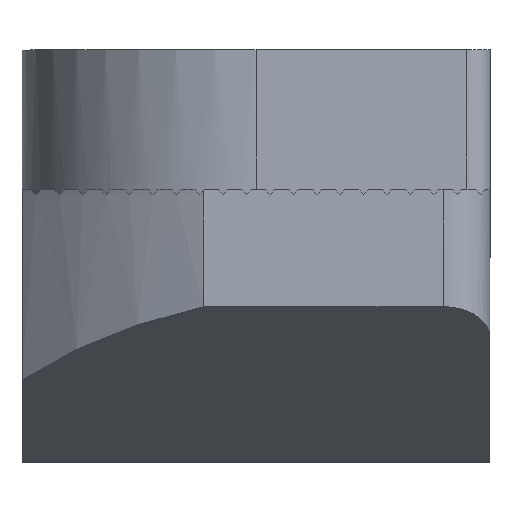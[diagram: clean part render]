
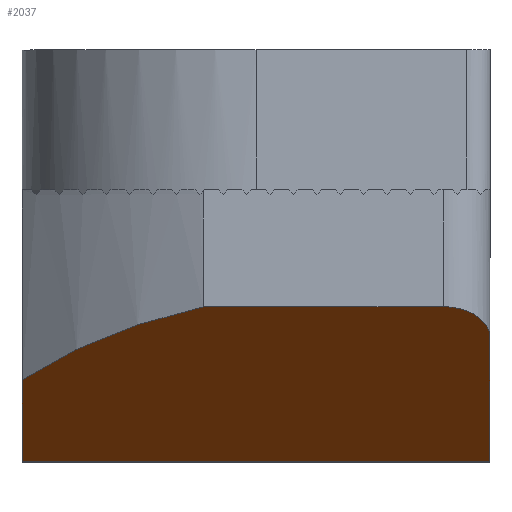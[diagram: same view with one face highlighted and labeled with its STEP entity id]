
A CAD part, top view. The second image highlights one B-rep face of the part: STEP entity #2037.
In plain terms, the highlighted planar face has unit normal (0, -0.835, 0.551).
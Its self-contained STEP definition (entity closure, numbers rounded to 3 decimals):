
#40 = CARTESIAN_POINT ( 'NONE',  ( -1.122, -2.5, 9.5 ) ) ;
#79 =( BOUNDED_CURVE ( )  B_SPLINE_CURVE ( 3, ( #4327, #3968, #4694, #2470 ),
 .UNSPECIFIED., .F., .T. ) 
 B_SPLINE_CURVE_WITH_KNOTS ( ( 4, 4 ),
 ( 4.712, 6.283 ),
 .UNSPECIFIED. ) 
 CURVE ( )  GEOMETRIC_REPRESENTATION_ITEM ( )  RATIONAL_B_SPLINE_CURVE ( ( 1., 0.805, 0.805, 1. ) ) 
 REPRESENTATION_ITEM ( '' )  );
#129 = ORIENTED_EDGE ( 'NONE', *, *, #2876, .F. ) ;
#149 = VERTEX_POINT ( 'NONE', #3459 ) ;
#180 = VERTEX_POINT ( 'NONE', #3836 ) ;
#206 = EDGE_LOOP ( 'NONE', ( #1652, #4264, #3855, #129, #3467, #4723 ) ) ;
#235 = VECTOR ( 'NONE', #3081, 1000. ) ;
#327 = VERTEX_POINT ( 'NONE', #4709 ) ;
#431 = EDGE_CURVE ( 'NONE', #619, #149, #836, .T. ) ;
#619 = VERTEX_POINT ( 'NONE', #1256 ) ;
#738 = EDGE_CURVE ( 'NONE', #4765, #327, #4916, .T. ) ;
#768 = CARTESIAN_POINT ( 'NONE',  ( 5., -2.5, 9.5 ) ) ;
#806 = CARTESIAN_POINT ( 'NONE',  ( -5., -4.057, 7.141 ) ) ;
#818 = VECTOR ( 'NONE', #1851, 1000. ) ;
#836 = LINE ( 'NONE', #1053, #818 ) ;
#1029 = FACE_OUTER_BOUND ( 'NONE', #206, .T. ) ;
#1053 = CARTESIAN_POINT ( 'NONE',  ( -5., -2.5, 9.5 ) ) ;
#1209 =( BOUNDED_CURVE ( )  B_SPLINE_CURVE ( 3, ( #806, #4596, #2372, #40 ),
 .UNSPECIFIED., .F., .F. ) 
 B_SPLINE_CURVE_WITH_KNOTS ( ( 4, 4 ),
 ( 5.508, 5.966 ),
 .UNSPECIFIED. ) 
 CURVE ( )  GEOMETRIC_REPRESENTATION_ITEM ( )  RATIONAL_B_SPLINE_CURVE ( ( 1., 0.983, 0.983, 1. ) ) 
 REPRESENTATION_ITEM ( '' )  );
#1256 = CARTESIAN_POINT ( 'NONE',  ( -1.122, -2.5, 9.5 ) ) ;
#1371 = EDGE_CURVE ( 'NONE', #4765, #180, #3027, .T. ) ;
#1652 = ORIENTED_EDGE ( 'NONE', *, *, #4826, .T. ) ;
#1780 = VECTOR ( 'NONE', #2802, 1000. ) ;
#1851 = DIRECTION ( 'NONE',  ( 1., 0., 0. ) ) ;
#2017 = EDGE_CURVE ( 'NONE', #3898, #149, #79, .T. ) ;
#2037 = ADVANCED_FACE ( 'NONE', ( #1029 ), #4340, .F. ) ;
#2106 = CARTESIAN_POINT ( 'NONE',  ( -5., -2.5, 9.5 ) ) ;
#2372 = CARTESIAN_POINT ( 'NONE',  ( -2.585, -2.817, 9.019 ) ) ;
#2470 = CARTESIAN_POINT ( 'NONE',  ( 4., -2.5, 9.5 ) ) ;
#2488 = DIRECTION ( 'NONE',  ( 0., 0.551, 0.835 ) ) ;
#2671 = CARTESIAN_POINT ( 'NONE',  ( -5., -5.8, 4.5 ) ) ;
#2802 = DIRECTION ( 'NONE',  ( 0., 0.551, 0.835 ) ) ;
#2876 = EDGE_CURVE ( 'NONE', #180, #619, #1209, .T. ) ;
#3027 = LINE ( 'NONE', #3558, #1780 ) ;
#3035 = DIRECTION ( 'NONE',  ( 1., 0., 0. ) ) ;
#3081 = DIRECTION ( 'NONE',  ( 0., 0.551, 0.835 ) ) ;
#3459 = CARTESIAN_POINT ( 'NONE',  ( 4., -2.5, 9.5 ) ) ;
#3467 = ORIENTED_EDGE ( 'NONE', *, *, #1371, .F. ) ;
#3558 = CARTESIAN_POINT ( 'NONE',  ( -5., -2.5, 9.5 ) ) ;
#3571 = CARTESIAN_POINT ( 'NONE',  ( 5., -3.16, 8.5 ) ) ;
#3836 = CARTESIAN_POINT ( 'NONE',  ( -5., -4.057, 7.141 ) ) ;
#3855 = ORIENTED_EDGE ( 'NONE', *, *, #431, .F. ) ;
#3898 = VERTEX_POINT ( 'NONE', #3571 ) ;
#3968 = CARTESIAN_POINT ( 'NONE',  ( 5., -2.773, 9.086 ) ) ;
#4170 = LINE ( 'NONE', #768, #235 ) ;
#4264 = ORIENTED_EDGE ( 'NONE', *, *, #2017, .T. ) ;
#4327 = CARTESIAN_POINT ( 'NONE',  ( 5., -3.16, 8.5 ) ) ;
#4340 = PLANE ( 'NONE',  #4449 ) ;
#4449 = AXIS2_PLACEMENT_3D ( 'NONE', #2106, #4712, #2488 ) ;
#4482 = CARTESIAN_POINT ( 'NONE',  ( -5., -5.8, 4.5 ) ) ;
#4596 = CARTESIAN_POINT ( 'NONE',  ( -3.901, -3.345, 8.219 ) ) ;
#4694 = CARTESIAN_POINT ( 'NONE',  ( 4.586, -2.5, 9.5 ) ) ;
#4709 = CARTESIAN_POINT ( 'NONE',  ( 5., -5.8, 4.5 ) ) ;
#4712 = DIRECTION ( 'NONE',  ( 0., 0.835, -0.551 ) ) ;
#4723 = ORIENTED_EDGE ( 'NONE', *, *, #738, .T. ) ;
#4757 = VECTOR ( 'NONE', #3035, 1000. ) ;
#4765 = VERTEX_POINT ( 'NONE', #4482 ) ;
#4826 = EDGE_CURVE ( 'NONE', #327, #3898, #4170, .T. ) ;
#4916 = LINE ( 'NONE', #2671, #4757 ) ;
